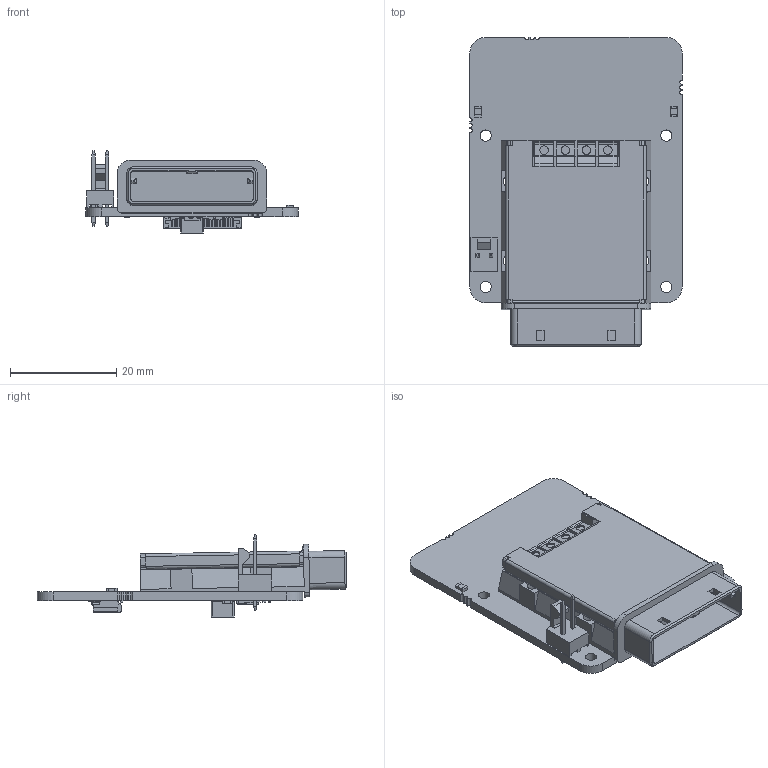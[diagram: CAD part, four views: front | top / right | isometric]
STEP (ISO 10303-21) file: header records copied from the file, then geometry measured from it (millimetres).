
FILE_DESCRIPTION(/* description */ ('step model'),/* implementation_level */ '2;1');
FILE_NAME(/* name */ 'ADPT-MX-X2G2-IPASS-TARGET.stp',/* time_stamp */ '2017-09-04T14:33:28+02:00',/* author */ ('Spano'),/* organization */ ('Ximea'),/* preprocessor_version */ 'ST-DEVELOPER v16',/* originating_system */ 'SIEMENS PLM Software NX 11.0',/* authorisation */ '');
FILE_SCHEMA (('AUTOMOTIVE_DESIGN { 1 0 10303 214 3 1 1 1 }'));
Products named in the file (1): ADPT-MX-X2G2-IPASS-TARGET
Bounding box: 40 x 58.26 x 15.46 mm (x, y, z)
Volume: 8729.3 mm3; surface area: 12048.6 mm2
Topology: 27 solids, 27 shells, 3335 faces, 9728 edges, 6391 vertices
Faces by surface type: plane 2542, cylinder 761, bspline 18, cone 14
Full cylindrical faces by diameter (mm): 1 x2, 1.55 x4, 2.1 x4, 2.5 x4
Entity records: 111551 total; most frequent: CARTESIAN_POINT 20313, ORIENTED_EDGE 19456, DIRECTION 17800, EDGE_CURVE 9728, LINE 8132, VECTOR 8132, VERTEX_POINT 6391, AXIS2_PLACEMENT_3D 4834
